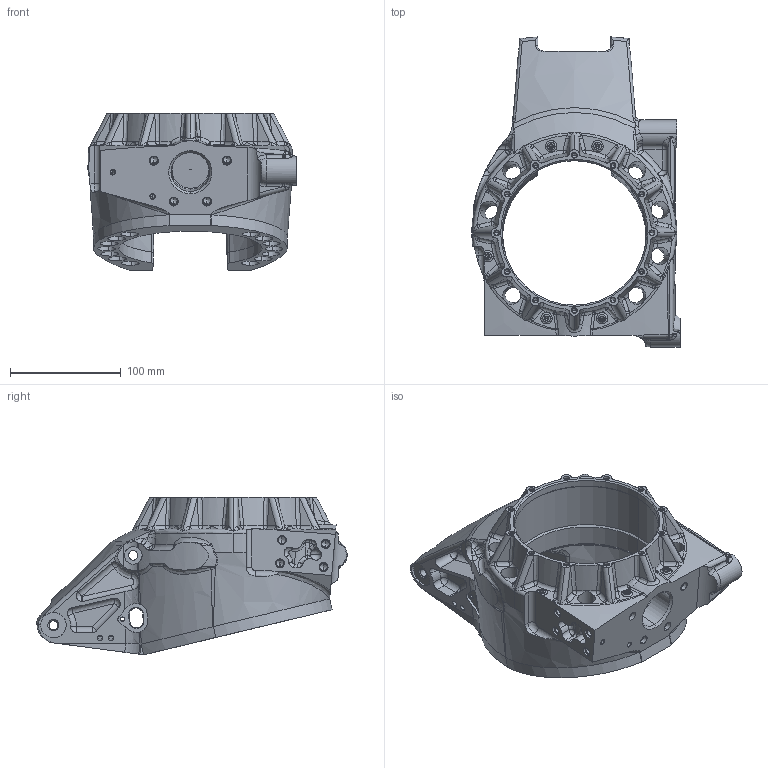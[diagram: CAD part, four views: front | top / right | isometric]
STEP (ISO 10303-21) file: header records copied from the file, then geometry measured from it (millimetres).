
FILE_DESCRIPTION (( 'STEP AP214' ), '1' );
FILE_NAME ('Mini WRC Wheel Hub V1_2_REFERNCE.STEP', '2025-01-26T09:15:24', ( '' ), ( '' ), 'SwSTEP 2.0', 'SolidWorks 2024', '' );
FILE_SCHEMA (( 'AUTOMOTIVE_DESIGN' ));
Length unit declared in the file: millimetre
Products named in the file (1): Mini WRC Wheel Hub V1_2_REFERNCE
Bounding box: 188 x 280.02 x 142.22 mm (x, y, z)
Volume: 1216465 mm3; surface area: 277597.6 mm2
Topology: 1 solids, 1 shells, 1113 faces, 2790 edges, 1587 vertices
Faces by surface type: bspline 325, cylinder 314, cone 187, plane 141, torus 75, sphere 71
Entity records: 52759 total; most frequent: CARTESIAN_POINT 29858, ORIENTED_EDGE 5302, DIRECTION 4179, EDGE_CURVE 2651, AXIS2_PLACEMENT_3D 1743, VERTEX_POINT 1586, EDGE_LOOP 1195, ADVANCED_FACE 1112
